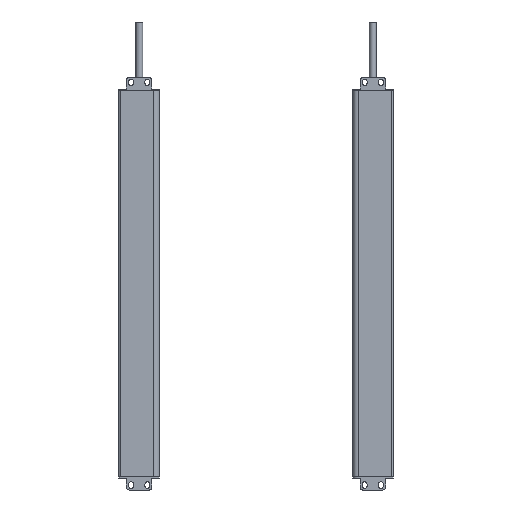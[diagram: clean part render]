
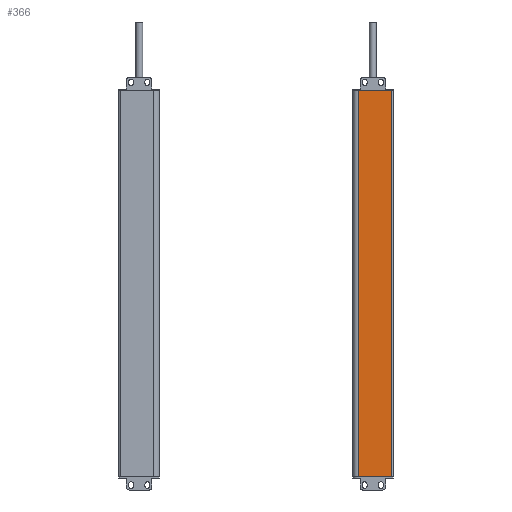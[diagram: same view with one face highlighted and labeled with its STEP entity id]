
A CAD part, front view. The second image highlights one B-rep face of the part: STEP entity #366.
In plain terms, the highlighted planar face has unit normal (0, -1, 0).
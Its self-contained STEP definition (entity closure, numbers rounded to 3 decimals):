
#123=PLANE('',#5869);
#366=ADVANCED_FACE('',(#797),#123,.T.);
#797=FACE_OUTER_BOUND('',#1073,.T.);
#1073=EDGE_LOOP('',(#1780,#1781,#1782,#1783));
#1780=ORIENTED_EDGE('',*,*,#3977,.T.);
#1781=ORIENTED_EDGE('',*,*,#3978,.F.);
#1782=ORIENTED_EDGE('',*,*,#3979,.F.);
#1783=ORIENTED_EDGE('',*,*,#3903,.T.);
#3351=VERTEX_POINT('',#8106);
#3352=VERTEX_POINT('',#8108);
#3421=VERTEX_POINT('',#8253);
#3422=VERTEX_POINT('',#8257);
#3903=EDGE_CURVE('',#3352,#3351,#4726,.T.);
#3977=EDGE_CURVE('',#3351,#3421,#4771,.T.);
#3978=EDGE_CURVE('',#3422,#3421,#4772,.T.);
#3979=EDGE_CURVE('',#3352,#3422,#4773,.T.);
#4726=LINE('',#8107,#5280);
#4771=LINE('',#8254,#5325);
#4772=LINE('',#8256,#5326);
#4773=LINE('',#8258,#5327);
#5280=VECTOR('',#6413,1.);
#5325=VECTOR('',#6522,1.);
#5326=VECTOR('',#6525,1.);
#5327=VECTOR('',#6526,1.);
#5869=AXIS2_PLACEMENT_3D('',#8259,#6527,#6528);
#6413=DIRECTION('',(1.,0.,0.));
#6522=DIRECTION('',(0.,0.,1.));
#6525=DIRECTION('',(1.,0.,0.));
#6526=DIRECTION('',(0.,0.,1.));
#6527=DIRECTION('',(0.,-1.,0.));
#6528=DIRECTION('',(-1.,0.,0.));
#8106=CARTESIAN_POINT('',(3.35,-1.3,-100.));
#8107=CARTESIAN_POINT('',(-21.15,-1.3,-100.));
#8108=CARTESIAN_POINT('',(-21.15,-1.3,-100.));
#8253=CARTESIAN_POINT('',(3.35,-1.3,182.));
#8254=CARTESIAN_POINT('',(3.35,-1.3,-100.));
#8256=CARTESIAN_POINT('',(-4122.897,-1.3,182.));
#8257=CARTESIAN_POINT('',(-21.15,-1.3,182.));
#8258=CARTESIAN_POINT('',(-21.15,-1.3,-100.));
#8259=CARTESIAN_POINT('',(-21.15,-1.3,-100.));
